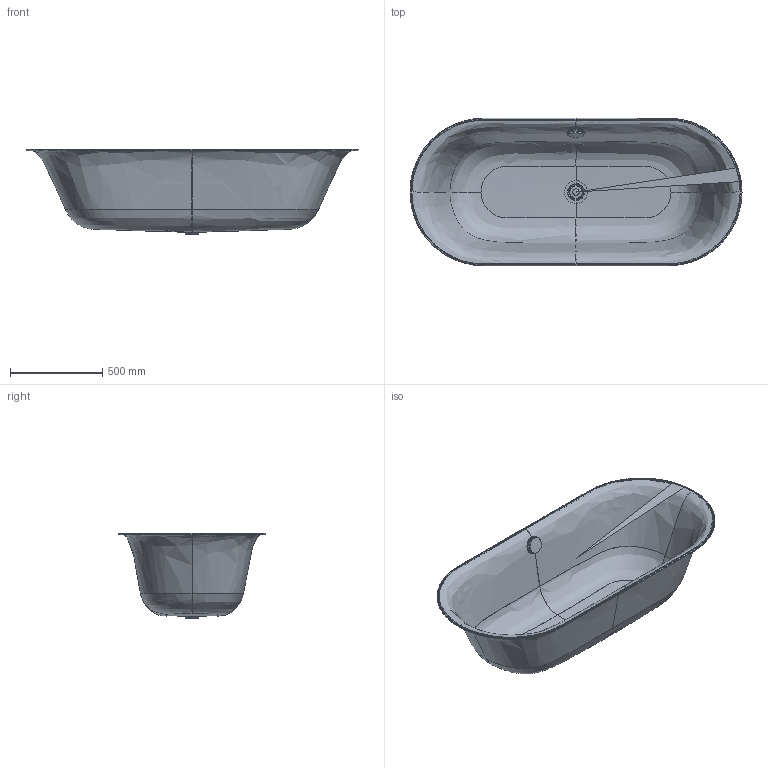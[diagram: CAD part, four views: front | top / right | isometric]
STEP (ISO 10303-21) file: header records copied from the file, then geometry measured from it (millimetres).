
FILE_DESCRIPTION((' '),'2;1');
FILE_NAME( '18514e78ab1d75c3.stp', '2022-12-15T09:29:56', (' '), ('--- Datakit www.datakit.com---'), ' Datakit CrossCadWare V2022.3 Jun 15 2022', 'DATAKIT 2022 (c)', ' ');
FILE_SCHEMA(('CONFIG_CONTROL_DESIGN'));
Length unit declared in the file: millimetre
Products named in the file (1): 18514e769b96a9c3
Bounding box: 1799 x 799 x 464.7 mm (x, y, z)
Volume: 106327.3 mm3; surface area: 4594166.2 mm2
Topology: 2 solids, 3 shells, 108 faces, 265 edges, 171 vertices
Faces by surface type: bspline 46, plane 18, cylinder 14, torus 12, offset 12, extrusion 4, cone 2
Full cylindrical faces by diameter (mm): 35 x1, 52 x2
Entity records: 99854 total; most frequent: CARTESIAN_POINT 97764, ORIENTED_EDGE 498, DIRECTION 261, EDGE_CURVE 249, VERTEX_POINT 164, B_SPLINE_CURVE_WITH_KNOTS 153, EDGE_LOOP 132, AXIS2_PLACEMENT_3D 111
